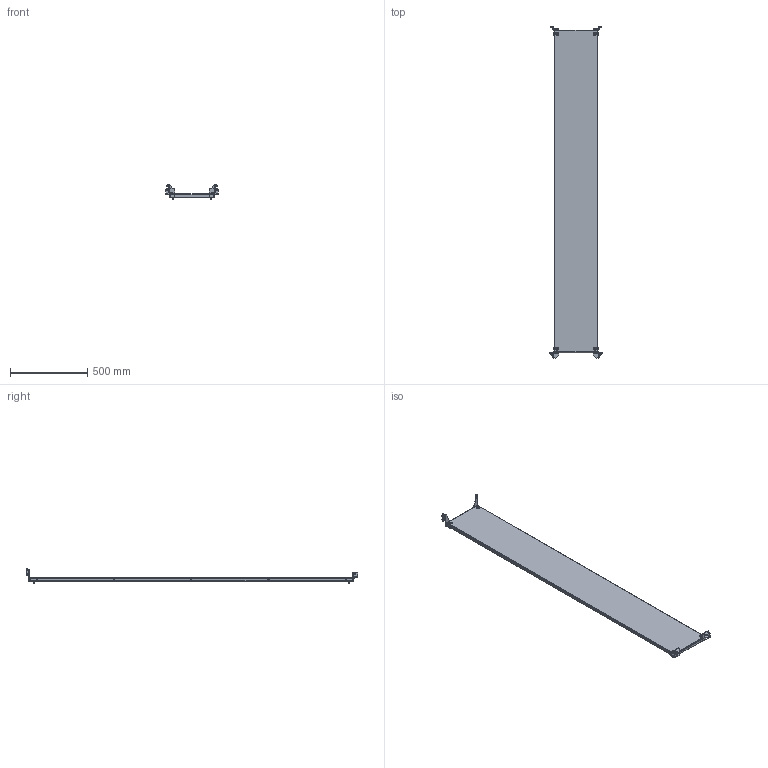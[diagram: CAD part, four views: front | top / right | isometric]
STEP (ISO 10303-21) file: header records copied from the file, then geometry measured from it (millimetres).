
FILE_DESCRIPTION(('STEP AP203'), '1');
FILE_NAME('3522.220.40 Ïàíåëü ìîíòàæíàÿ', '', ('UNSPECIFIED'), ('UNSPECIFIED'), 'C3D Converter', 'C3D Toolkit', '');
FILE_SCHEMA(('CONFIG_CONTROL_DESIGN'));
Length unit declared in the file: millimetre
Products named in the file (1): 3522.220.40
Bounding box: 338.8 x 2150.5 x 101.8 mm (x, y, z)
Volume: 1653430.7 mm3; surface area: 1648559.6 mm2
Topology: 12 solids, 12 shells, 812 faces, 2149 edges, 1399 vertices
Faces by surface type: plane 474, cylinder 200, bspline 80, cone 30, torus 18, sphere 10
Full cylindrical faces by diameter (mm): 3 x4, 4.8 x10, 4.917 x4, 6 x14, 6.4 x4, 7 x10, 7.6 x4, 9.5 x10, 10 x4, 18 x4, 20 x4
Entity records: 38190 total; most frequent: CARTESIAN_POINT 12027, ORIENTED_EDGE 4024, DIRECTION 3882, EDGE_CURVE 2012, VERTEX_POINT 1392, AXIS2_PLACEMENT_3D 1375, LINE 1132, VECTOR 1132
